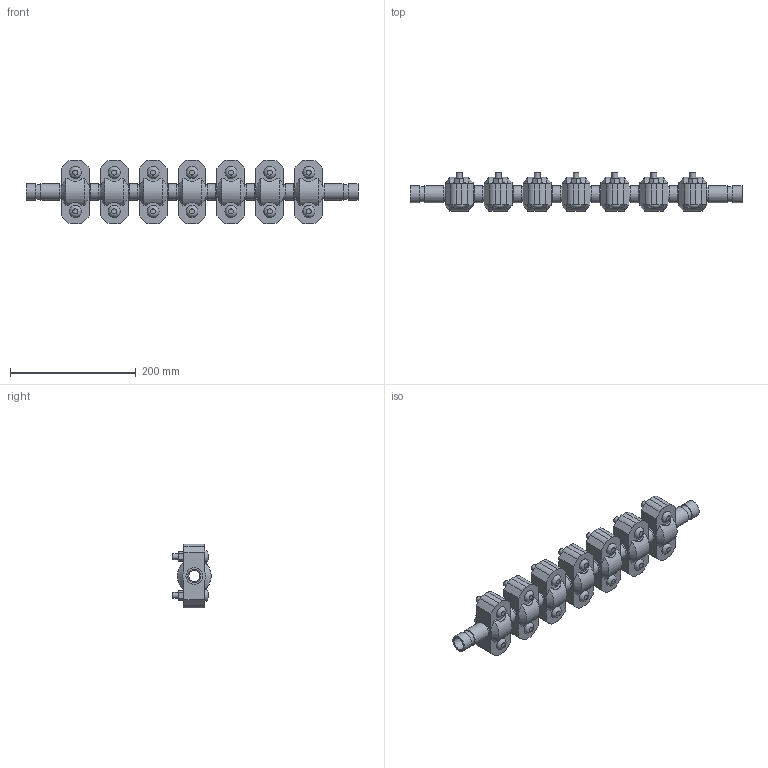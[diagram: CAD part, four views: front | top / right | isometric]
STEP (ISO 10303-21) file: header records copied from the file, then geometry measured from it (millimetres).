
FILE_DESCRIPTION(/* description */ ('VIC EXPANSION JOINT 7 COUPLINGS EXPANDED STYLE 155 (OGS)','CAx-IF Rec.Pracs.---Representation and Presentation of Product Manufacturing Information (PMI)---4.0---2014-10-13'),/* implementation_level */ '2;1');
FILE_NAME(/* name */ 'C:\Users\kkamble\AppData\Roaming\Autodesk\ApplicationPlugins\Victaulic.Temp\A179\Victaulic_IPS_Expansion Joint_Expanded_7 Couplings_Style 155 (OGS)_0.75 (20).stp',/* time_stamp */ '2021-06-27T00:06:14+02:00',/* author */ ('kkamble'),/* organization */ ('Victaulic'),/* preprocessor_version */ 'ST-DEVELOPER v17.2',/* originating_system */ 'Autodesk Inventor 2019',/* authorisation */ '');
FILE_SCHEMA (('AP242_MANAGED_MODEL_BASED_3D_ENGINEERING_MIM_LF { 1 0 10303 442 1 1 4 }'));
Length unit declared in the file: inch
Products named in the file (4): 155-0.75; Nipple-0.75; Nipple-0.75_1; 077-0.75
Assembly tree (15 placements, depth 2):
  155-0.75
    Nipple-0.75  x2
    Nipple-0.75_1  x6
    077-0.75  x7
Bounding box: 528.57 x 61.1 x 101.6 mm (x, y, z)
Volume: 1085881.5 mm3; surface area: 277328.6 mm2
Topology: 15 solids, 29 shells, 523 faces, 1255 edges, 878 vertices
Faces by surface type: plane 300, cylinder 181, cone 28, bspline 14
Full cylindrical faces by diameter (mm): 9.525 x28, 11.43 x14, 17.78 x7, 20.93 x8, 23.825 x16, 26.67 x38
Entity records: 3033 total; most frequent: CARTESIAN_POINT 591, DIRECTION 493, ORIENTED_EDGE 410, EDGE_CURVE 205, AXIS2_PLACEMENT_3D 198, VERTEX_POINT 146, EDGE_LOOP 111, LINE 97
